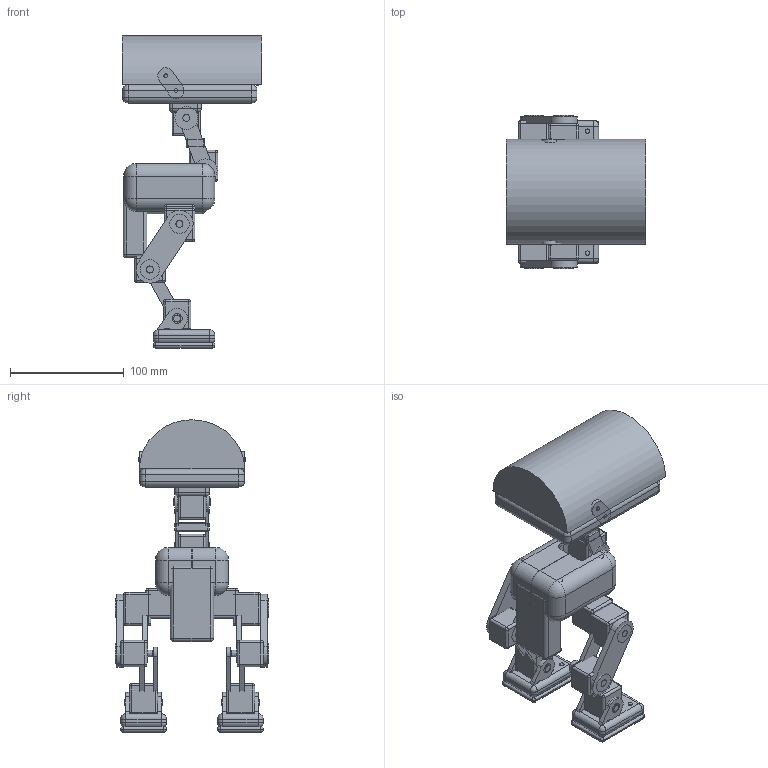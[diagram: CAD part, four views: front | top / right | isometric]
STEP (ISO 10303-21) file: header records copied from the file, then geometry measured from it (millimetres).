
FILE_DESCRIPTION(('Open CASCADE Model'),'2;1');
FILE_NAME('Open CASCADE Shape Model','2026-10-24T02:10:02',('Author'),( 'Open CASCADE'),'Open CASCADE STEP processor 7.8','Open CASCADE 7.8' ,'Unknown');
FILE_SCHEMA(('AUTOMOTIVE_DESIGN { 1 0 10303 214 1 1 1 1 }'));
Length unit declared in the file: millimetre
Products named in the file (72): MicroDuck_parametric_concept; head_arched_hood; head_face_insert; orange_lower_jaw; mouth_dark_seam; mouth_upper_lip; single_yellow_camera_bezel; camera_black_barrel; camera_glass; jaw_pivot_tab_right; jaw_pivot_pin_right; jaw_pivot_tab_left; jaw_pivot_pin_left; torso_shell_left; torso_shell_right; torso_inner_frame; rear_battery_pack; torso_screw_-32_-22; torso_screw_19_-22; torso_screw_-32_22; torso_screw_19_22; neck_link_right; neck_link_left; neck_lower_servo; neck_upper_servo; neck_center_brace; neck_axle_0; neck_horn_0_-1; neck_horn_0_1; neck_axle_1; neck_horn_1_-1; neck_horn_1_1; head_yaw_gimbal; head_mount_plate; hip_yaw_servo_right; hip_outer_servo_right; hip_cross_axle_right; thigh_outer_plate_right; thigh_inner_plate_right; knee_servo_right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
Assembly tree (71 placements, depth 2):
  MicroDuck_parametric_concept
    head_arched_hood
    head_face_insert
    orange_lower_jaw
    mouth_dark_seam
    mouth_upper_lip
    single_yellow_camera_bezel
    camera_black_barrel
    camera_glass
    jaw_pivot_tab_right
    jaw_pivot_pin_right
    jaw_pivot_tab_left
    jaw_pivot_pin_left
    torso_shell_left
    torso_shell_right
    torso_inner_frame
    rear_battery_pack
    torso_screw_-32_-22
    torso_screw_19_-22
    torso_screw_-32_22
    torso_screw_19_22
    neck_link_right
    neck_link_left
    neck_lower_servo
    neck_upper_servo
    neck_center_brace
    neck_axle_0
    neck_horn_0_-1
    neck_horn_0_1
    neck_axle_1
    neck_horn_1_-1
    neck_horn_1_1
    head_yaw_gimbal
    head_mount_plate
    hip_yaw_servo_right
    hip_outer_servo_right
    hip_cross_axle_right
    thigh_outer_plate_right
    thigh_inner_plate_right
    knee_servo_right
    shin_outer_link_right
    shin_inner_link_right
    ankle_servo_right
    joint_axle_right_0
    joint_bearing_right_0
    joint_axle_right_1
    joint_bearing_right_1
    joint_axle_right_2
    joint_bearing_right_2
    foot_sole_right
    orange_foot_right
    foot_deck_screw_right_-53
    foot_deck_screw_right_-31
    hip_yaw_servo_left
    hip_outer_servo_left
    hip_cross_axle_left
    thigh_outer_plate_left
    thigh_inner_plate_left
    knee_servo_left
    shin_outer_link_left
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Bounding box: 122 x 135 x 273.95 mm (x, y, z)
Volume: 569646.7 mm3; surface area: 237871 mm2
Topology: 71 solids, 71 shells, 938 faces, 2016 edges, 1016 vertices
Faces by surface type: cylinder 428, plane 309, sphere 198, extrusion 3
Full cylindrical faces by diameter (mm): 3 x2, 3.2 x4, 3.8 x4, 4.8 x4, 6 x32, 6.2 x6, 8.6 x4, 10 x2, 14.8 x1, 17 x6, 17.7 x1, 18 x1, 20 x4, 30 x1
Entity records: 49790 total; most frequent: CARTESIAN_POINT 8827, DIRECTION 8083, VECTOR 4054, LINE 4051, ORIENTED_EDGE 3640, PCURVE 3640, DEFINITIONAL_REPRESENTATION 3640, AXIS2_PLACEMENT_3D 1879
